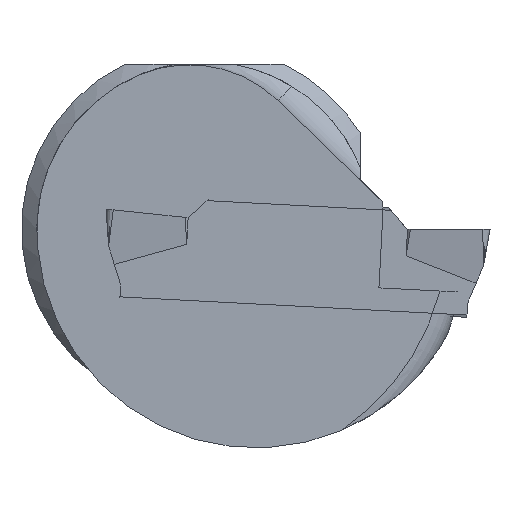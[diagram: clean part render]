
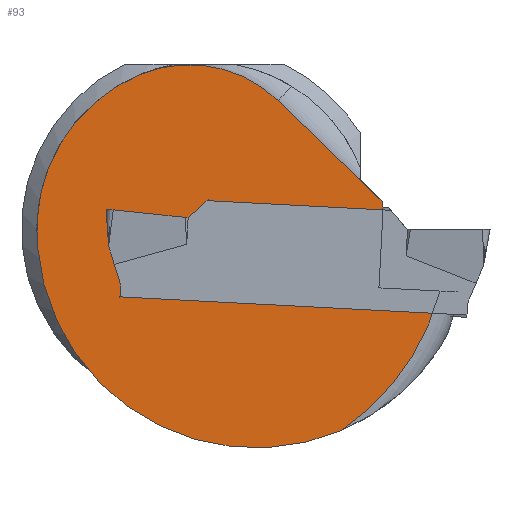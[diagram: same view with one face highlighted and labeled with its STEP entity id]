
A CAD part, left-side view. The second image highlights one B-rep face of the part: STEP entity #93.
In plain terms, the highlighted planar face has unit normal (-1, 0, 0).
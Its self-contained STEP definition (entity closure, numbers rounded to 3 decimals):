
#93=ADVANCED_FACE('',(#182),#147,.T.);
#147=PLANE('',#1004);
#182=FACE_OUTER_BOUND('',#235,.T.);
#235=EDGE_LOOP('',(#310,#311,#312,#313,#314,#315,#316,#317,#318));
#290=CIRCLE('',#1000,7.);
#291=CIRCLE('',#1001,9.15);
#292=CIRCLE('',#1002,11.95);
#293=CIRCLE('',#1003,13.3);
#310=ORIENTED_EDGE('',*,*,#678,.T.);
#311=ORIENTED_EDGE('',*,*,#679,.T.);
#312=ORIENTED_EDGE('',*,*,#680,.T.);
#313=ORIENTED_EDGE('',*,*,#681,.F.);
#314=ORIENTED_EDGE('',*,*,#682,.T.);
#315=ORIENTED_EDGE('',*,*,#683,.T.);
#316=ORIENTED_EDGE('',*,*,#684,.F.);
#317=ORIENTED_EDGE('',*,*,#685,.T.);
#318=ORIENTED_EDGE('',*,*,#686,.T.);
#588=VERTEX_POINT('',#1308);
#589=VERTEX_POINT('',#1309);
#590=VERTEX_POINT('',#1311);
#591=VERTEX_POINT('',#1313);
#592=VERTEX_POINT('',#1315);
#593=VERTEX_POINT('',#1317);
#594=VERTEX_POINT('',#1319);
#595=VERTEX_POINT('',#1321);
#596=VERTEX_POINT('',#1323);
#678=EDGE_CURVE('',#588,#589,#817,.T.);
#679=EDGE_CURVE('',#589,#590,#290,.T.);
#680=EDGE_CURVE('',#590,#591,#291,.T.);
#681=EDGE_CURVE('',#592,#591,#818,.T.);
#682=EDGE_CURVE('',#592,#593,#292,.T.);
#683=EDGE_CURVE('',#593,#594,#293,.T.);
#684=EDGE_CURVE('',#595,#594,#819,.T.);
#685=EDGE_CURVE('',#595,#596,#820,.T.);
#686=EDGE_CURVE('',#596,#588,#821,.T.);
#817=LINE('',#1307,#908);
#818=LINE('',#1314,#909);
#819=LINE('',#1320,#910);
#820=LINE('',#1322,#911);
#821=LINE('',#1324,#912);
#908=VECTOR('',#1073,1.);
#909=VECTOR('',#1078,1.);
#910=VECTOR('',#1083,1.);
#911=VECTOR('',#1084,1.);
#912=VECTOR('',#1085,1.);
#1000=AXIS2_PLACEMENT_3D('',#1310,#1074,#1075);
#1001=AXIS2_PLACEMENT_3D('',#1312,#1076,#1077);
#1002=AXIS2_PLACEMENT_3D('',#1316,#1079,#1080);
#1003=AXIS2_PLACEMENT_3D('',#1318,#1081,#1082);
#1004=AXIS2_PLACEMENT_3D('',#1325,#1086,#1087);
#1073=DIRECTION('',(0.,0.719,0.695));
#1074=DIRECTION('',(-1.,0.,0.));
#1075=DIRECTION('',(0.,-1.,0.));
#1076=DIRECTION('',(-1.,0.,0.));
#1077=DIRECTION('',(0.,0.,1.));
#1078=DIRECTION('',(0.,-1.,0.));
#1079=DIRECTION('',(-1.,0.,0.));
#1080=DIRECTION('',(0.,0.,1.));
#1081=DIRECTION('',(-1.,0.,0.));
#1082=DIRECTION('',(0.,0.,1.));
#1083=DIRECTION('',(0.,-0.999,-0.052));
#1084=DIRECTION('',(0.,-0.052,0.999));
#1085=DIRECTION('',(0.,0.,1.));
#1086=DIRECTION('',(-1.,0.,0.));
#1087=DIRECTION('',(0.,0.,1.));
#1307=CARTESIAN_POINT('',(0.35,10.807,6.281));
#1308=CARTESIAN_POINT('',(0.35,5.846,1.49));
#1309=CARTESIAN_POINT('',(0.35,11.57,7.017));
#1310=CARTESIAN_POINT('',(0.35,16.433,1.982));
#1311=CARTESIAN_POINT('',(0.35,19.145,8.435));
#1312=CARTESIAN_POINT('',(0.35,15.6,0.));
#1313=CARTESIAN_POINT('',(0.35,24.695,-1.));
#1314=CARTESIAN_POINT('',(0.35,1.15,-1.));
#1315=CARTESIAN_POINT('',(0.35,24.708,-1.));
#1316=CARTESIAN_POINT('',(0.35,12.8,0.));
#1317=CARTESIAN_POINT('',(0.35,8.113,-10.992));
#1318=CARTESIAN_POINT('',(0.35,15.6,0.));
#1319=CARTESIAN_POINT('',(0.35,2.736,-3.379));
#1320=CARTESIAN_POINT('',(0.35,6.066,-3.204));
#1321=CARTESIAN_POINT('',(0.35,6.066,-3.204));
#1322=CARTESIAN_POINT('',(0.35,6.066,-3.204));
#1323=CARTESIAN_POINT('',(0.35,5.846,0.99));
#1324=CARTESIAN_POINT('',(0.35,5.846,0.99));
#1325=CARTESIAN_POINT('',(0.35,1.15,0.));
